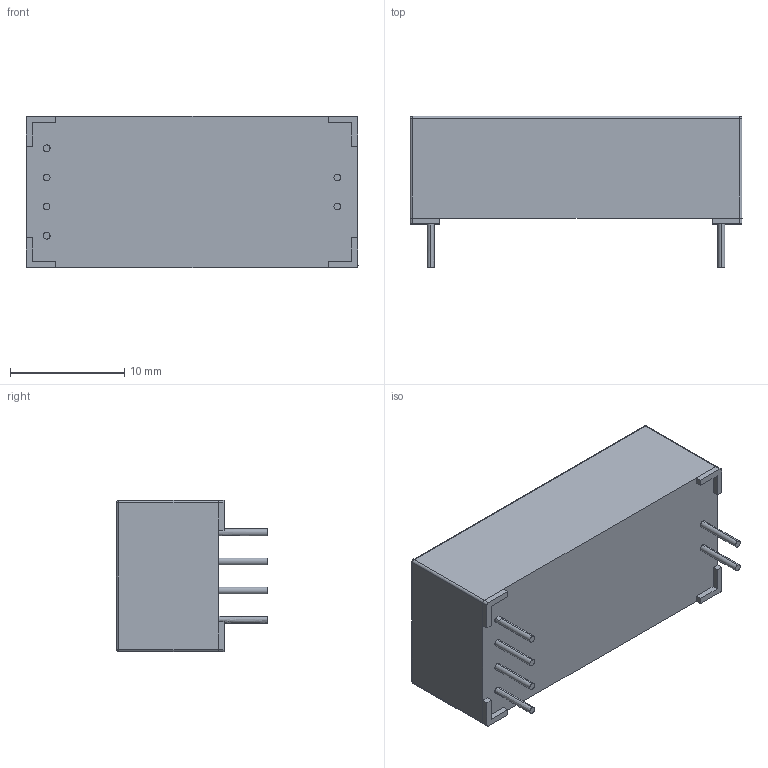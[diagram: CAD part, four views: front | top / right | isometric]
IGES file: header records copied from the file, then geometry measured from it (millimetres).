
Start section: SolidWorks IGES file using analytic representation for surfaces
Global section: file name: T:\Relays in Solidworks\Batch 3\89-2-A.IGS; native system: SolidWorks 2009; preprocessor: SolidWorks 2009; author: alex.leming; date: 100629.145427; units: millimetre
Bounding box: 29 x 13.2 x 13.2 mm (x, y, z)
Surface area: 1574.9 mm2 (no closed solid volume)
Topology: 0 solids, 0 shells, 725 faces, 7383 edges, 7382 vertices
Faces by surface type: bspline 697, revolution 28
